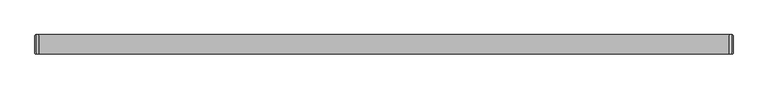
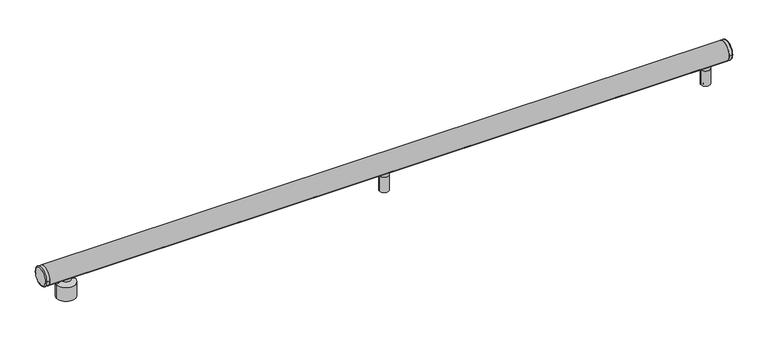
"""IFC4 building model written with IfcOpenShell, lengths in millimetres: light fixture geometry, ARTEMIDE-AoL-StandAlone-Linear_WallCeiling : StandALone_SemiRecessed_Linear-1800mm 5226lm 3000K."""

from ifc_helpers import new_model, si_unit, point, frame, frame_2d, origin, place, context, project, spatial, polyline, circle_curve, ellipse_curve, trimmed, segment, composite_curve, outline, extrude, source, transform, mapped, element, save
from ifc_brep_helpers import plane_surface, cylinder_surface, revolved_surface, advanced_brep


def light_fixture_7e7e0124(model_context):
    return source(origin(), model_context, "Body", "SolidModel", [
        advanced_brep(
        [(57.0, 0.0, 54.0), (69.0, 0.0, 54.0), (45.0, 0.0, 54.0), (32.0, 0.0, 0.0), (82.0, 0.0, 0.0), (57.0, 0.0, 0.0), (32.0, 0.0, 37.5120373), (82.0, 0.0, 37.5120373), (45.0, 0.0, 44.4453706), (69.0, 0.0, 44.4453706)],
        [
            (0, 1),
            (1, 2, circle_curve(frame((57.0, 0.0, 54.0), z_axis=(0.0, 0.0, 1.0), x_axis=(1.0, 0.0, 0.0)), 12.0)),
            (2, 0),
            (2, 1, circle_curve(frame((57.0, 0.0, 54.0), z_axis=(0.0, 0.0, 1.0), x_axis=(1.0, 0.0, 0.0)), 12.0)),
            (3, 4, circle_curve(frame((57.0, 0.0, 0.0), z_axis=(0.0, 0.0, -1.0), x_axis=(1.0, 0.0, 0.0)), 25.0)),
            (4, 5),
            (5, 3),
            (4, 3, circle_curve(frame((57.0, 0.0, 0.0), z_axis=(0.0, 0.0, -1.0), x_axis=(1.0, 0.0, 0.0)), 25.0)),
            (6, 7, circle_curve(frame((57.0, 0.0, 37.5120373), z_axis=(0.0, 0.0, -1.0), x_axis=(1.0, 0.0, 0.0)), 25.0)),
            (7, 4),
            (3, 6),
            (7, 6, circle_curve(frame((57.0, 0.0, 37.5120373), z_axis=(0.0, 0.0, -1.0), x_axis=(1.0, 0.0, 0.0)), 25.0)),
            (8, 9, circle_curve(frame((57.0, 0.0, 44.4453706), z_axis=(0.0, 0.0, -1.0), x_axis=(1.0, 0.0, 0.0)), 12.0)),
            (9, 7),
            (6, 8),
            (9, 8, circle_curve(frame((57.0, 0.0, 44.4453706), z_axis=(0.0, 0.0, -1.0), x_axis=(1.0, 0.0, 0.0)), 12.0)),
            (1, 9),
            (8, 2),
        ],
        [
            plane_surface(frame((57.0, 0.0, 54.0), z_axis=(0.0, 0.0, 1.0), x_axis=(1.0, 0.0, 0.0))),
            plane_surface(frame((57.0, 0.0, 0.0), z_axis=(0.0, 0.0, -1.0), x_axis=(1.0, 0.0, 0.0))),
            cylinder_surface(frame((57.0, 0.0, -58.83358), z_axis=(0.0, 0.0, 1.0), x_axis=(1.0, 0.0, 0.0)), 25.0),
            revolved_surface(polyline([(82.0, 0.0, 37.5120373), (69.0, 0.0, 44.4453706)]), (57.0, 0.0, -58.83358), (0.0, 0.0, 1.0)),
            cylinder_surface(frame((57.0, 0.0, -58.83358), z_axis=(0.0, 0.0, 1.0), x_axis=(1.0, 0.0, 0.0)), 12.0),
        ],
        [
            (0, [[1, 2, 3]]),
            (0, [[-3, 4, -1]]),
            (1, [[5, 6, 7]]),
            (1, [[8, -7, -6]]),
            (2, [[9, 10, -5, 11]]),
            (2, [[12, -11, -8, -10]]),
            (3, [[13, 14, -9, 15]]),
            (3, [[16, -15, -12, -14]]),
            (4, [[-2, 17, -13, 18]]),
            (4, [[-4, -18, -16, -17]]),
        ],
    ),
        advanced_brep(
        [(1726.5, 0.0, 0.0), (1737.5, 0.0, 0.0), (1732.0, 0.0, 0.0), (1726.5, 0.0, 1.0), (1737.5, 0.0, 1.0), (1720.0, 0.0, 1.0), (1744.0, 0.0, 1.0), (1720.0, 0.0, 42.5), (1744.0, 0.0, 42.5), (1722.4756244, 0.0, 42.5), (1741.5243756, 0.0, 42.5), (1722.4756244, 0.0, 43.4995055), (1741.5243756, 0.0, 43.4995055), (1720.0, 0.0, 43.4995055), (1744.0, 0.0, 43.4995055), (1720.0, 0.0, 52.9579379), (1744.0, 0.0, 52.9579379), (1732.0, 0.0, 52.9579379)],
        [
            (0, 1, circle_curve(frame((1732.0, 0.0, 0.0), z_axis=(0.0, 0.0, -1.0), x_axis=(1.0, 0.0, 0.0)), 5.5)),
            (1, 2),
            (2, 0),
            (1, 0, circle_curve(frame((1732.0, 0.0, 0.0), z_axis=(0.0, 0.0, -1.0), x_axis=(1.0, 0.0, 0.0)), 5.5)),
            (3, 4, circle_curve(frame((1732.0, 0.0, 1.0), z_axis=(0.0, 0.0, -1.0), x_axis=(1.0, 0.0, 0.0)), 5.5)),
            (4, 1),
            (0, 3),
            (4, 3, circle_curve(frame((1732.0, 0.0, 1.0), z_axis=(0.0, 0.0, -1.0), x_axis=(1.0, 0.0, 0.0)), 5.5)),
            (5, 6, circle_curve(frame((1732.0, 0.0, 1.0), z_axis=(0.0, 0.0, -1.0), x_axis=(1.0, 0.0, 0.0)), 12.0)),
            (6, 4),
            (3, 5),
            (6, 5, circle_curve(frame((1732.0, 0.0, 1.0), z_axis=(0.0, 0.0, -1.0), x_axis=(1.0, 0.0, 0.0)), 12.0)),
            (7, 8, circle_curve(frame((1732.0, 0.0, 42.5), z_axis=(0.0, 0.0, -1.0), x_axis=(1.0, 0.0, 0.0)), 12.0)),
            (8, 6),
            (5, 7),
            (8, 7, circle_curve(frame((1732.0, 0.0, 42.5), z_axis=(0.0, 0.0, -1.0), x_axis=(1.0, 0.0, 0.0)), 12.0)),
            (9, 10, circle_curve(frame((1732.0, 0.0, 42.5), z_axis=(0.0, 0.0, -1.0), x_axis=(1.0, 0.0, 0.0)), 9.5243756)),
            (10, 8),
            (7, 9),
            (10, 9, circle_curve(frame((1732.0, 0.0, 42.5), z_axis=(0.0, 0.0, -1.0), x_axis=(1.0, 0.0, 0.0)), 9.5243756)),
            (11, 12, circle_curve(frame((1732.0, 0.0, 43.4995055), z_axis=(0.0, 0.0, -1.0), x_axis=(1.0, 0.0, 0.0)), 9.5243756)),
            (12, 10),
            (9, 11),
            (12, 11, circle_curve(frame((1732.0, 0.0, 43.4995055), z_axis=(0.0, 0.0, -1.0), x_axis=(1.0, 0.0, 0.0)), 9.5243756)),
            (13, 14, circle_curve(frame((1732.0, 0.0, 43.4995055), z_axis=(0.0, 0.0, -1.0), x_axis=(1.0, 0.0, 0.0)), 12.0)),
            (14, 12),
            (11, 13),
            (14, 13, circle_curve(frame((1732.0, 0.0, 43.4995055), z_axis=(0.0, 0.0, -1.0), x_axis=(1.0, 0.0, 0.0)), 12.0)),
            (15, 16, circle_curve(frame((1732.0, 0.0, 52.9579379), z_axis=(0.0, 0.0, -1.0), x_axis=(1.0, 0.0, 0.0)), 12.0)),
            (16, 14),
            (13, 15),
            (16, 15, circle_curve(frame((1732.0, 0.0, 52.9579379), z_axis=(0.0, 0.0, -1.0), x_axis=(1.0, 0.0, 0.0)), 12.0)),
            (17, 16),
            (15, 17),
        ],
        [
            plane_surface(frame((1732.0, 0.0, 0.0), z_axis=(0.0, 0.0, -1.0), x_axis=(1.0, 0.0, 0.0))),
            cylinder_surface(frame((1732.0, 0.0, -58.83358), z_axis=(0.0, 0.0, 1.0), x_axis=(1.0, 0.0, 0.0)), 5.5),
            plane_surface(frame((1732.0, 0.0, 1.0), z_axis=(0.0, 0.0, -1.0), x_axis=(1.0, 0.0, 0.0))),
            cylinder_surface(frame((1732.0, 0.0, -58.83358), z_axis=(0.0, 0.0, 1.0), x_axis=(1.0, 0.0, 0.0)), 12.0),
            plane_surface(frame((1732.0, 0.0, 42.5), z_axis=(0.0, 0.0, 1.0), x_axis=(1.0, 0.0, 0.0))),
            cylinder_surface(frame((1732.0, 0.0, -58.83358), z_axis=(0.0, 0.0, 1.0), x_axis=(1.0, 0.0, 0.0)), 9.5243756),
            plane_surface(frame((1732.0, 0.0, 43.4995055), z_axis=(0.0, 0.0, -1.0), x_axis=(1.0, 0.0, 0.0))),
            plane_surface(frame((1732.0, 0.0, 52.9579379), z_axis=(0.0, 0.0, 1.0), x_axis=(1.0, 0.0, 0.0))),
        ],
        [
            (0, [[1, 2, 3]]),
            (0, [[4, -3, -2]]),
            (1, [[5, 6, -1, 7]]),
            (1, [[8, -7, -4, -6]]),
            (2, [[9, 10, -5, 11]]),
            (2, [[12, -11, -8, -10]]),
            (3, [[13, 14, -9, 15]]),
            (3, [[16, -15, -12, -14]]),
            (4, [[17, 18, -13, 19]]),
            (4, [[20, -19, -16, -18]]),
            (5, [[21, 22, -17, 23]]),
            (5, [[24, -23, -20, -22]]),
            (6, [[25, 26, -21, 27]]),
            (6, [[28, -27, -24, -26]]),
            (3, [[29, 30, -25, 31]]),
            (3, [[32, -31, -28, -30]]),
            (7, [[33, -29, 34]]),
            (7, [[-34, -32, -33]]),
        ],
    ),
        advanced_brep(
        [(884.5, 0.0, 0.0), (895.5, 0.0, 0.0), (890.0, 0.0, 0.0), (884.5, 0.0, 1.0), (895.5, 0.0, 1.0), (878.0, 0.0, 1.0), (902.0, 0.0, 1.0), (878.0, 0.0, 42.5), (902.0, 0.0, 42.5), (880.4756244, 0.0, 42.5), (899.5243756, 0.0, 42.5), (880.4756244, 0.0, 43.4995055), (899.5243756, 0.0, 43.4995055), (878.0, 0.0, 43.4995055), (902.0, 0.0, 43.4995055), (878.0, 0.0, 52.9579379), (902.0, 0.0, 52.9579379), (890.0, 0.0, 52.9579379)],
        [
            (0, 1, circle_curve(frame((890.0, 0.0, 0.0), z_axis=(0.0, 0.0, -1.0), x_axis=(1.0, 0.0, 0.0)), 5.5)),
            (1, 2),
            (2, 0),
            (1, 0, circle_curve(frame((890.0, 0.0, 0.0), z_axis=(0.0, 0.0, -1.0), x_axis=(1.0, 0.0, 0.0)), 5.5)),
            (3, 4, circle_curve(frame((890.0, 0.0, 1.0), z_axis=(0.0, 0.0, -1.0), x_axis=(1.0, 0.0, 0.0)), 5.5)),
            (4, 1),
            (0, 3),
            (4, 3, circle_curve(frame((890.0, 0.0, 1.0), z_axis=(0.0, 0.0, -1.0), x_axis=(1.0, 0.0, 0.0)), 5.5)),
            (5, 6, circle_curve(frame((890.0, 0.0, 1.0), z_axis=(0.0, 0.0, -1.0), x_axis=(1.0, 0.0, 0.0)), 12.0)),
            (6, 4),
            (3, 5),
            (6, 5, circle_curve(frame((890.0, 0.0, 1.0), z_axis=(0.0, 0.0, -1.0), x_axis=(1.0, 0.0, 0.0)), 12.0)),
            (7, 8, circle_curve(frame((890.0, 0.0, 42.5), z_axis=(0.0, 0.0, -1.0), x_axis=(1.0, 0.0, 0.0)), 12.0)),
            (8, 6),
            (5, 7),
            (8, 7, circle_curve(frame((890.0, 0.0, 42.5), z_axis=(0.0, 0.0, -1.0), x_axis=(1.0, 0.0, 0.0)), 12.0)),
            (9, 10, circle_curve(frame((890.0, 0.0, 42.5), z_axis=(0.0, 0.0, -1.0), x_axis=(1.0, 0.0, 0.0)), 9.5243756)),
            (10, 8),
            (7, 9),
            (10, 9, circle_curve(frame((890.0, 0.0, 42.5), z_axis=(0.0, 0.0, -1.0), x_axis=(1.0, 0.0, 0.0)), 9.5243756)),
            (11, 12, circle_curve(frame((890.0, 0.0, 43.4995055), z_axis=(0.0, 0.0, -1.0), x_axis=(1.0, 0.0, 0.0)), 9.5243756)),
            (12, 10),
            (9, 11),
            (12, 11, circle_curve(frame((890.0, 0.0, 43.4995055), z_axis=(0.0, 0.0, -1.0), x_axis=(1.0, 0.0, 0.0)), 9.5243756)),
            (13, 14, circle_curve(frame((890.0, 0.0, 43.4995055), z_axis=(0.0, 0.0, -1.0), x_axis=(1.0, 0.0, 0.0)), 12.0)),
            (14, 12),
            (11, 13),
            (14, 13, circle_curve(frame((890.0, 0.0, 43.4995055), z_axis=(0.0, 0.0, -1.0), x_axis=(1.0, 0.0, 0.0)), 12.0)),
            (15, 16, circle_curve(frame((890.0, 0.0, 52.9579379), z_axis=(0.0, 0.0, -1.0), x_axis=(1.0, 0.0, 0.0)), 12.0)),
            (16, 14),
            (13, 15),
            (16, 15, circle_curve(frame((890.0, 0.0, 52.9579379), z_axis=(0.0, 0.0, -1.0), x_axis=(1.0, 0.0, 0.0)), 12.0)),
            (17, 16),
            (15, 17),
        ],
        [
            plane_surface(frame((890.0, 0.0, 0.0), z_axis=(0.0, 0.0, -1.0), x_axis=(1.0, 0.0, 0.0))),
            cylinder_surface(frame((890.0, 0.0, -58.83358), z_axis=(0.0, 0.0, 1.0), x_axis=(1.0, 0.0, 0.0)), 5.5),
            plane_surface(frame((890.0, 0.0, 1.0), z_axis=(0.0, 0.0, -1.0), x_axis=(1.0, 0.0, 0.0))),
            cylinder_surface(frame((890.0, 0.0, -58.83358), z_axis=(0.0, 0.0, 1.0), x_axis=(1.0, 0.0, 0.0)), 12.0),
            plane_surface(frame((890.0, 0.0, 42.5), z_axis=(0.0, 0.0, 1.0), x_axis=(1.0, 0.0, 0.0))),
            cylinder_surface(frame((890.0, 0.0, -58.83358), z_axis=(0.0, 0.0, 1.0), x_axis=(1.0, 0.0, 0.0)), 9.5243756),
            plane_surface(frame((890.0, 0.0, 43.4995055), z_axis=(0.0, 0.0, -1.0), x_axis=(1.0, 0.0, 0.0))),
            plane_surface(frame((890.0, 0.0, 52.9579379), z_axis=(0.0, 0.0, 1.0), x_axis=(1.0, 0.0, 0.0))),
        ],
        [
            (0, [[1, 2, 3]]),
            (0, [[4, -3, -2]]),
            (1, [[5, 6, -1, 7]]),
            (1, [[8, -7, -4, -6]]),
            (2, [[9, 10, -5, 11]]),
            (2, [[12, -11, -8, -10]]),
            (3, [[13, 14, -9, 15]]),
            (3, [[16, -15, -12, -14]]),
            (4, [[17, 18, -13, 19]]),
            (4, [[20, -19, -16, -18]]),
            (5, [[21, 22, -17, 23]]),
            (5, [[24, -23, -20, -22]]),
            (6, [[25, 26, -21, 27]]),
            (6, [[28, -27, -24, -26]]),
            (3, [[29, 30, -25, 31]]),
            (3, [[32, -31, -28, -30]]),
            (7, [[33, -29, 34]]),
            (7, [[-34, -32, -33]]),
        ],
    ),
        advanced_brep(
        [(-10.0, 22.0, 75.0), (-10.0, -22.0, 75.0), (0.0, 25.0, 75.0), (0.0, -25.0, 75.0), (-7.0, -25.0, 75.0), (-7.0, 25.0, 75.0)],
        [
            (0, 1, circle_curve(frame((-10.0, 0.0, 75.0), z_axis=(-1.0, 0.0, 0.0), x_axis=(0.0, -1.0, 0.0)), 22.0)),
            (1, 0, circle_curve(frame((-10.0, 0.0, 75.0), z_axis=(-1.0, 0.0, 0.0), x_axis=(0.0, 1.0, 0.0)), 22.0)),
            (2, 3, circle_curve(frame((0.0, 0.0, 75.0), z_axis=(1.0, 0.0, 0.0), x_axis=(0.0, -1.0, 0.0)), 25.0)),
            (3, 2, circle_curve(frame((0.0, 0.0, 75.0), z_axis=(1.0, 0.0, 0.0), x_axis=(0.0, -1.0, 0.0)), 25.0)),
            (3, 4),
            (4, 5, circle_curve(frame((-7.0, 0.0, 75.0), z_axis=(1.0, 0.0, 0.0), x_axis=(0.0, -1.0, 0.0)), 25.0)),
            (5, 2),
            (5, 4, circle_curve(frame((-7.0, 0.0, 75.0), z_axis=(1.0, 0.0, 0.0), x_axis=(0.0, -1.0, 0.0)), 25.0)),
            (0, 5, circle_curve(frame((-7.0, 22.0, 75.0), z_axis=(0.0, 0.0, -1.0), x_axis=(0.0, 1.0, 0.0)), 3.0)),
            (4, 1, circle_curve(frame((-7.0, -22.0, 75.0), z_axis=(0.0, 0.0, -1.0), x_axis=(0.0, -1.0, 0.0)), 3.0)),
        ],
        [
            plane_surface(frame((-10.0, -25.0, 75.0), z_axis=(-1.0, 0.0, 0.0), x_axis=(0.0, 0.0, 1.0))),
            plane_surface(frame((0.0, -25.0, 75.0), z_axis=(1.0, 0.0, 0.0), x_axis=(0.0, 0.0, -1.0))),
            cylinder_surface(frame((0.0, 0.0, 75.0), z_axis=(-1.0, 0.0, 0.0), x_axis=(0.0, -1.0, 0.0)), 25.0),
            revolved_surface(trimmed(ellipse_curve(frame((-7.0, -22.0, 75.0), z_axis=(0.0, 0.0, 1.0), x_axis=(0.0, -1.0, 0.0)), 3.0, 3.0), [point((-10.0, -22.0, 75.0))], [point((-7.0, -25.0, 75.0))], True, "CARTESIAN"), (-10.0, 0.0, 75.0), (1.0, 0.0, 0.0)),
            revolved_surface(trimmed(ellipse_curve(frame((-7.0, 22.0, 75.0), z_axis=(0.0, 0.0, -1.0), x_axis=(0.0, 1.0, 0.0)), 3.0, 3.0), [point((-10.0, 22.0, 75.0))], [point((-7.0, 25.0, 75.0))], True, "CARTESIAN"), (-10.0, 0.0, 75.0), (1.0, 0.0, 0.0)),
        ],
        [
            (0, [[1, 2]]),
            (1, [[3, 4]]),
            (2, [[-4, 5, 6, 7]]),
            (2, [[-3, -7, 8, -5]]),
            (3, [[9, -6, 10, -1]]),
            (4, [[-9, -2, -10, -8]]),
        ],
    ),
        advanced_brep(
        [(1790.0, -22.0, 75.0), (1790.0, 22.0, 75.0), (1780.0, 25.0, 75.0), (1780.0, -25.0, 75.0), (1787.0, -25.0, 75.0), (1787.0, 25.0, 75.0)],
        [
            (0, 1, circle_curve(frame((1790.0, 0.0, 75.0), z_axis=(1.0, 0.0, 0.0), x_axis=(0.0, 1.0, 0.0)), 22.0)),
            (1, 0, circle_curve(frame((1790.0, 0.0, 75.0), z_axis=(1.0, 0.0, 0.0), x_axis=(0.0, -1.0, 0.0)), 22.0)),
            (2, 3, circle_curve(frame((1780.0, 0.0, 75.0), z_axis=(-1.0, 0.0, 0.0), x_axis=(0.0, 0.0, 1.0)), 25.0)),
            (3, 2, circle_curve(frame((1780.0, 0.0, 75.0), z_axis=(-1.0, 0.0, 0.0), x_axis=(0.0, 0.0, 1.0)), 25.0)),
            (3, 4),
            (4, 5, circle_curve(frame((1787.0, 0.0, 75.0), z_axis=(-1.0, 0.0, 0.0), x_axis=(0.0, 0.0, 1.0)), 25.0)),
            (5, 2),
            (5, 4, circle_curve(frame((1787.0, 0.0, 75.0), z_axis=(-1.0, 0.0, 0.0), x_axis=(0.0, 0.0, 1.0)), 25.0)),
            (0, 4, circle_curve(frame((1787.0, -22.0, 75.0), z_axis=(0.0, 0.0, -1.0), x_axis=(0.0, -1.0, 0.0)), 3.0)),
            (5, 1, circle_curve(frame((1787.0, 22.0, 75.0), z_axis=(0.0, 0.0, -1.0), x_axis=(0.0, 1.0, 0.0)), 3.0)),
        ],
        [
            plane_surface(frame((1790.0, 0.0, 100.0), z_axis=(1.0, 0.0, 0.0), x_axis=(0.0, -1.0, 0.0))),
            plane_surface(frame((1780.0, 0.0, 100.0), z_axis=(-1.0, 0.0, 0.0), x_axis=(0.0, 1.0, 0.0))),
            cylinder_surface(frame((1780.0, 0.0, 75.0), z_axis=(1.0, 0.0, 0.0), x_axis=(0.0, 0.0, 1.0)), 25.0),
            revolved_surface(trimmed(ellipse_curve(frame((1787.0, 22.0, 75.0), z_axis=(0.0, 0.0, 1.0), x_axis=(0.0, 1.0, 0.0)), 3.0, 3.0), [point((1790.0, 22.0, 75.0))], [point((1787.0, 25.0, 75.0))], True, "CARTESIAN"), (1790.0, 0.0, 75.0), (-1.0, 0.0, 0.0)),
            revolved_surface(trimmed(ellipse_curve(frame((1787.0, -22.0, 75.0), z_axis=(0.0, 0.0, -1.0), x_axis=(0.0, -1.0, 0.0)), 3.0, 3.0), [point((1790.0, -22.0, 75.0))], [point((1787.0, -25.0, 75.0))], True, "CARTESIAN"), (1790.0, 0.0, 75.0), (-1.0, 0.0, 0.0)),
        ],
        [
            (0, [[1, 2]]),
            (1, [[3, 4]]),
            (2, [[-4, 5, 6, 7]]),
            (2, [[-3, -7, 8, -5]]),
            (3, [[9, -8, 10, -1]]),
            (4, [[-9, -2, -10, -6]]),
        ],
    ),
        extrude(outline(composite_curve([segment(trimmed(circle_curve(frame_2d((0.0, 75.0)), 25.0), [point((-11.75, 52.9333396))], [point((11.75, 52.9333396))], False, "CARTESIAN"), True, "CONTINUOUS"), segment(polyline([(11.75, 52.9333396), (11.75, 57.259212), (13.667754, 57.259212), (13.667754, 55.8288843), (15.617754, 57.2440748), (15.617754, 59.244074), (12.667754, 59.244074), (12.667754, 60.744074), (17.2779794, 60.744074)]), True, "CONTINUOUS"), segment(trimmed(circle_curve(frame_2d((0.0, 75.0)), 22.4), [point((17.2779794, 60.744074))], [point((-17.2779794, 60.744074))], True, "CARTESIAN"), True, "CONTINUOUS"), segment(polyline([(-17.2779794, 60.744074), (-12.667754, 60.744074), (-12.667754, 59.244074), (-15.617754, 59.244074), (-15.617754, 57.2440748), (-13.667754, 55.8288843), (-13.667754, 57.259212), (-11.75, 57.259212), (-11.75, 52.9333396)]), True, "CONTINUOUS")], self_intersect=False)), frame((0.0, 0.0, 0.0), z_axis=(1.0, 0.0, 0.0), x_axis=(0.0, 1.0, 0.0)), (0.0, 0.0, 1.0), 1780.0),
        extrude(outline(composite_curve([segment(trimmed(circle_curve(frame_2d((0.0, 75.0)), 25.0), [point((11.75, 52.9333396))], [point((-11.75, 52.9333396))], False, "CARTESIAN"), True, "CONTINUOUS"), segment(polyline([(-11.75, 52.9333396), (-11.75, 57.259212), (-15.304087, 57.259212), (-15.304087, 58.785971), (-9.5062575, 58.785971), (-9.5062575, 64.4273482), (9.5062575, 64.4273482), (9.5062575, 58.785971), (15.304087, 58.785971), (15.304087, 57.259212), (11.75, 57.259212), (11.75, 52.9333396)]), True, "CONTINUOUS")], self_intersect=False)), frame((0.0, 0.0, 0.0), z_axis=(1.0, 0.0, 0.0), x_axis=(0.0, 1.0, 0.0)), (0.0, 0.0, 1.0), 1780.0),
    ])


if __name__ == "__main__":
    model = new_model("IFC4")
    model_context = context("Model", 3, world=origin())
    ifc_project = project(units=[si_unit("LENGTHUNIT", "METRE", prefix="MILLI")], contexts=[model_context])
    site = spatial("IfcSite", under=ifc_project)
    building = spatial("IfcBuilding", under=site)
    placement = place(None, origin())
    light_fixture_shape = light_fixture_7e7e0124(model_context)
    element("IfcLightFixture", 1, ObjectType="ARTEMIDE-AoL-StandAlone-Linear_WallCeiling : StandALone_SemiRecessed_Linear-1800mm 5226lm 3000K", at=placement, inside=building, context=model_context, shape_type="MappedRepresentation", body=[
        mapped(light_fixture_shape, transform((0.0, 0.0, 0.0), x_axis=(1.0, 0.0, 0.0), y_axis=(0.0, 1.0, 0.0), z_axis=(0.0, 0.0, 1.0))),
    ])
    save(model, "model.ifc")
